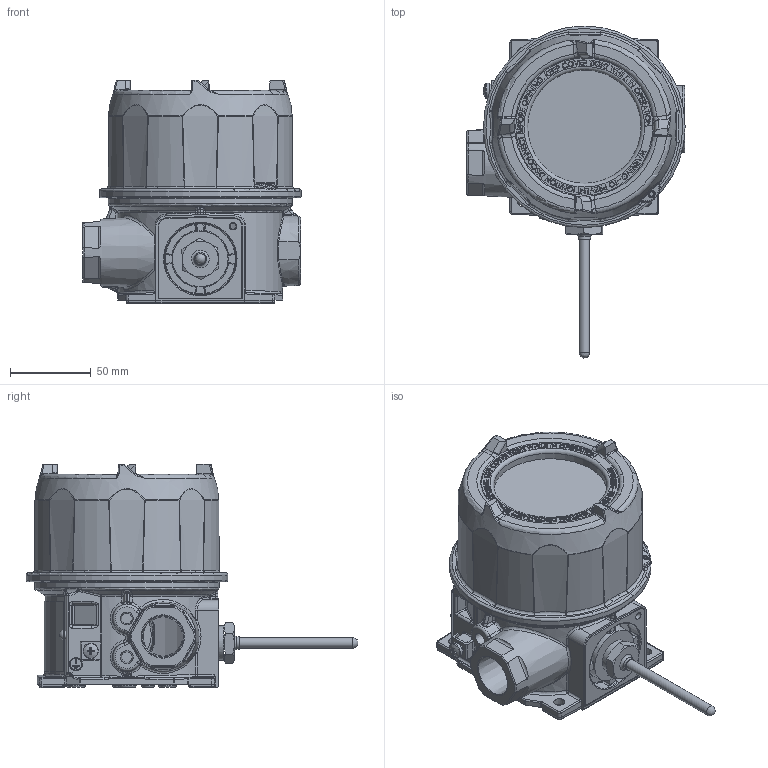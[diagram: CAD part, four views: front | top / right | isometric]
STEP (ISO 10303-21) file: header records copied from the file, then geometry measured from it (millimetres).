
FILE_DESCRIPTION (( 'STEP AP214' ), '1' );
FILE_NAME ('2SLP47_48_49_TL1_V7.STEP', '2025-03-13T17:33:10', ( '' ), ( '' ), 'SwSTEP 2.0', 'SolidWorks 2023', '' );
FILE_SCHEMA (( 'AUTOMOTIVE_DESIGN' ));
Products named in the file (1): 2SLP47_48_49_TL1_V7
Bounding box: 135 x 205.22 x 138.33 mm (x, y, z)
Surface area: 102448.6 mm2 (no closed solid volume)
Topology: 0 solids, 20 shells, 1566 faces, 4766 edges, 3022 vertices
Faces by surface type: plane 663, bspline 429, cylinder 174, torus 167, cone 106, sphere 27
Full cylindrical faces by diameter (mm): 3.3 x1, 6.426 x1, 7.722 x1, 9.5 x1, 70.104 x1, 114.046 x1, 124.714 x1
Entity records: 76660 total; most frequent: CARTESIAN_POINT 38740, ORIENTED_EDGE 8016, DIRECTION 6685, EDGE_CURVE 4641, VERTEX_POINT 2995, LINE 2509, VECTOR 2509, AXIS2_PLACEMENT_3D 2088
